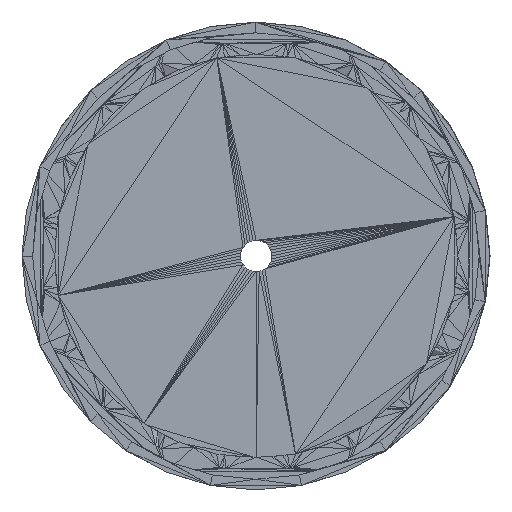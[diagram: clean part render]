
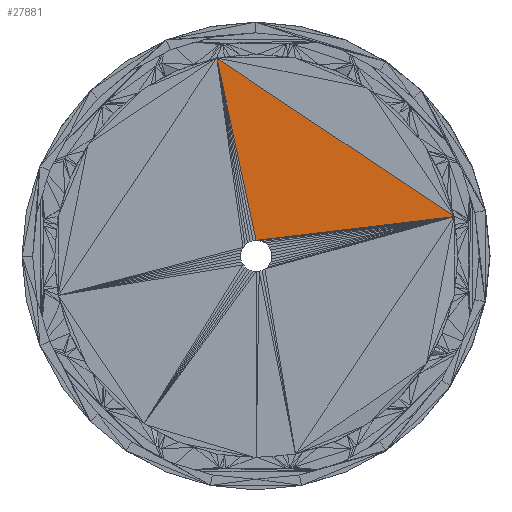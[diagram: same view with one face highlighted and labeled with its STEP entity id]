
A CAD part, top view. The second image highlights one B-rep face of the part: STEP entity #27881.
In plain terms, the highlighted planar face has unit normal (0, 0, 1).
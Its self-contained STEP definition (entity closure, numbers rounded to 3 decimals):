
#22274 = VERTEX_POINT('',#22275);
#22275 = CARTESIAN_POINT('',(-0.167,0.36,
    0.68));
#26085 = VERTEX_POINT('',#26086);
#26086 = CARTESIAN_POINT('',(-0.223,0.397,
    0.68));
#27574 = PLANE('',#27575);
#27575 = AXIS2_PLACEMENT_3D('',#27576,#27577,#27578);
#27576 = CARTESIAN_POINT('',(-0.193,0.381,
    0.68));
#27577 = DIRECTION('',(0.,0.,1.));
#27578 = DIRECTION('',(1.,0.,-0.));
#27670 = EDGE_CURVE('',#26085,#22274,#27671,.T.);
#27671 = SURFACE_CURVE('',#27672,(#27676,#27683),.PCURVE_S1.);
#27672 = LINE('',#27673,#27674);
#27673 = CARTESIAN_POINT('',(-0.223,0.397,
    0.68));
#27674 = VECTOR('',#27675,1.);
#27675 = DIRECTION('',(0.831,-0.556,0.));
#27676 = PCURVE('',#27574,#27677);
#27677 = DEFINITIONAL_REPRESENTATION('',(#27678),#27682);
#27678 = LINE('',#27679,#27680);
#27679 = CARTESIAN_POINT('',(-0.03,0.016));
#27680 = VECTOR('',#27681,1.);
#27681 = DIRECTION('',(0.831,-0.556));
#27682 = ( GEOMETRIC_REPRESENTATION_CONTEXT(2) 
PARAMETRIC_REPRESENTATION_CONTEXT() REPRESENTATION_CONTEXT('2D SPACE',''
  ) );
#27683 = PCURVE('',#27684,#27689);
#27684 = PLANE('',#27685);
#27685 = AXIS2_PLACEMENT_3D('',#27686,#27687,#27688);
#27686 = CARTESIAN_POINT('',(-0.2,0.371,
    0.68));
#27687 = DIRECTION('',(0.,0.,1.));
#27688 = DIRECTION('',(0.,1.,0.));
#27689 = DEFINITIONAL_REPRESENTATION('',(#27690),#27693);
#27690 = B_SPLINE_CURVE_WITH_KNOTS('',1,(#27691,#27692),.UNSPECIFIED.,
  .F.,.F.,(2,2),(0.,0.067),.PIECEWISE_BEZIER_KNOTS.);
#27691 = CARTESIAN_POINT('',(0.026,0.023));
#27692 = CARTESIAN_POINT('',(-0.012,-0.033));
#27693 = ( GEOMETRIC_REPRESENTATION_CONTEXT(2) 
PARAMETRIC_REPRESENTATION_CONTEXT() REPRESENTATION_CONTEXT('2D SPACE',''
  ) );
#27881 = ADVANCED_FACE('',(#27882),#27684,.T.);
#27882 = FACE_BOUND('',#27883,.T.);
#27883 = EDGE_LOOP('',(#27884,#27911,#27912));
#27884 = ORIENTED_EDGE('',*,*,#27885,.T.);
#27885 = EDGE_CURVE('',#27886,#22274,#27888,.T.);
#27886 = VERTEX_POINT('',#27887);
#27887 = CARTESIAN_POINT('',(-0.214,0.354,
    0.68));
#27888 = SURFACE_CURVE('',#27889,(#27893,#27900),.PCURVE_S1.);
#27889 = LINE('',#27890,#27891);
#27890 = CARTESIAN_POINT('',(-0.214,0.354,
    0.68));
#27891 = VECTOR('',#27892,1.);
#27892 = DIRECTION('',(0.993,0.119,0.));
#27893 = PCURVE('',#27684,#27894);
#27894 = DEFINITIONAL_REPRESENTATION('',(#27895),#27899);
#27895 = LINE('',#27896,#27897);
#27896 = CARTESIAN_POINT('',(-0.017,0.014));
#27897 = VECTOR('',#27898,1.);
#27898 = DIRECTION('',(0.119,-0.993));
#27899 = ( GEOMETRIC_REPRESENTATION_CONTEXT(2) 
PARAMETRIC_REPRESENTATION_CONTEXT() REPRESENTATION_CONTEXT('2D SPACE',''
  ) );
#27900 = PCURVE('',#27901,#27906);
#27901 = PLANE('',#27902);
#27902 = AXIS2_PLACEMENT_3D('',#27903,#27904,#27905);
#27903 = CARTESIAN_POINT('',(-0.19,0.357,
    0.68));
#27904 = DIRECTION('',(0.,0.,1.));
#27905 = DIRECTION('',(0.,1.,0.));
#27906 = DEFINITIONAL_REPRESENTATION('',(#27907),#27910);
#27907 = B_SPLINE_CURVE_WITH_KNOTS('',1,(#27908,#27909),.UNSPECIFIED.,
  .F.,.F.,(2,2),(0.,0.047),.PIECEWISE_BEZIER_KNOTS.);
#27908 = CARTESIAN_POINT('',(-0.003,0.023));
#27909 = CARTESIAN_POINT('',(0.003,-0.023));
#27910 = ( GEOMETRIC_REPRESENTATION_CONTEXT(2) 
PARAMETRIC_REPRESENTATION_CONTEXT() REPRESENTATION_CONTEXT('2D SPACE',''
  ) );
#27911 = ORIENTED_EDGE('',*,*,#27670,.F.);
#27912 = ORIENTED_EDGE('',*,*,#27913,.F.);
#27913 = EDGE_CURVE('',#27886,#26085,#27914,.T.);
#27914 = SURFACE_CURVE('',#27915,(#27919,#27925),.PCURVE_S1.);
#27915 = LINE('',#27916,#27917);
#27916 = CARTESIAN_POINT('',(-0.214,0.354,
    0.68));
#27917 = VECTOR('',#27918,1.);
#27918 = DIRECTION('',(-0.211,0.977,0.));
#27919 = PCURVE('',#27684,#27920);
#27920 = DEFINITIONAL_REPRESENTATION('',(#27921),#27924);
#27921 = B_SPLINE_CURVE_WITH_KNOTS('',1,(#27922,#27923),.UNSPECIFIED.,
  .F.,.F.,(2,2),(0.,0.044),.PIECEWISE_BEZIER_KNOTS.);
#27922 = CARTESIAN_POINT('',(-0.017,0.014));
#27923 = CARTESIAN_POINT('',(0.026,0.023));
#27924 = ( GEOMETRIC_REPRESENTATION_CONTEXT(2) 
PARAMETRIC_REPRESENTATION_CONTEXT() REPRESENTATION_CONTEXT('2D SPACE',''
  ) );
#27925 = PCURVE('',#27926,#27931);
#27926 = PLANE('',#27927);
#27927 = AXIS2_PLACEMENT_3D('',#27928,#27929,#27930);
#27928 = CARTESIAN_POINT('',(-0.218,0.375,
    0.68));
#27929 = DIRECTION('',(0.,0.,1.));
#27930 = DIRECTION('',(1.,0.,0.));
#27931 = DEFINITIONAL_REPRESENTATION('',(#27932),#27936);
#27932 = LINE('',#27933,#27934);
#27933 = CARTESIAN_POINT('',(0.005,-0.021));
#27934 = VECTOR('',#27935,1.);
#27935 = DIRECTION('',(-0.211,0.977));
#27936 = ( GEOMETRIC_REPRESENTATION_CONTEXT(2) 
PARAMETRIC_REPRESENTATION_CONTEXT() REPRESENTATION_CONTEXT('2D SPACE',''
  ) );
